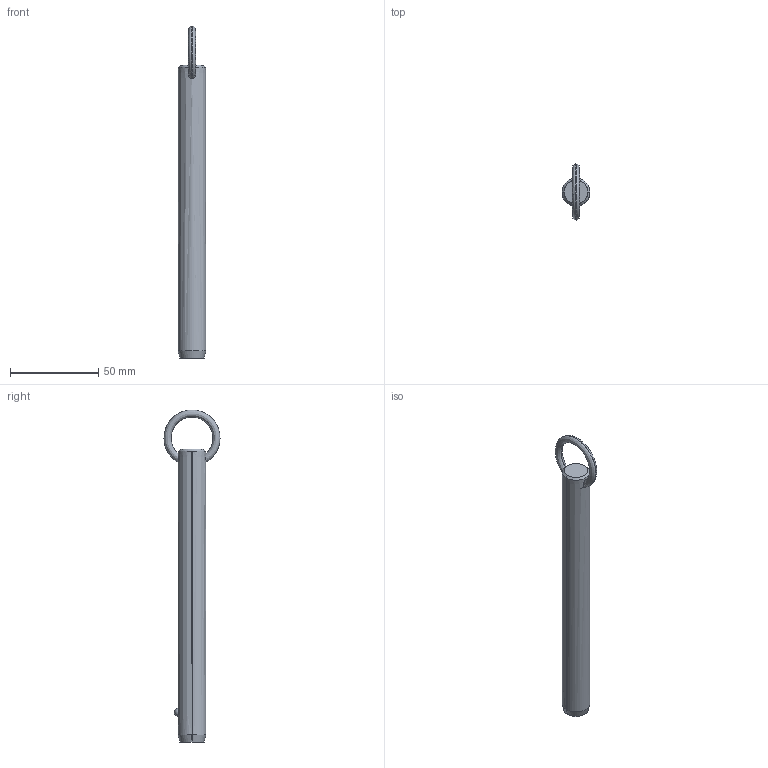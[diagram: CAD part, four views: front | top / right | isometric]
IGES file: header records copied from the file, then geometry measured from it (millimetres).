
Start section: SolidWorks IGES file using analytic representation for surfaces
Global section: file name: C:\Users\liam_\OneDrive\Documents\WORK\Work for WixRoyd\Job Files\J-00019 - Matt Davis CAD Checking\04. CAD Drawings\automotion20190605\P1250.2_v2\P1250.2_v2_20190729_IGES\P1250.062-540.igs; native system: SolidWorks 2017; preprocessor: SolidWorks 2017; author: liam_; date: 190729.234010; units: millimetre
Bounding box: 15.8 x 31.7 x 187.9 mm (x, y, z)
Surface area: 9398.7 mm2 (no closed solid volume)
Topology: 0 solids, 0 shells, 12 faces, 292 edges, 290 vertices
Faces by surface type: revolution 8, bspline 4
